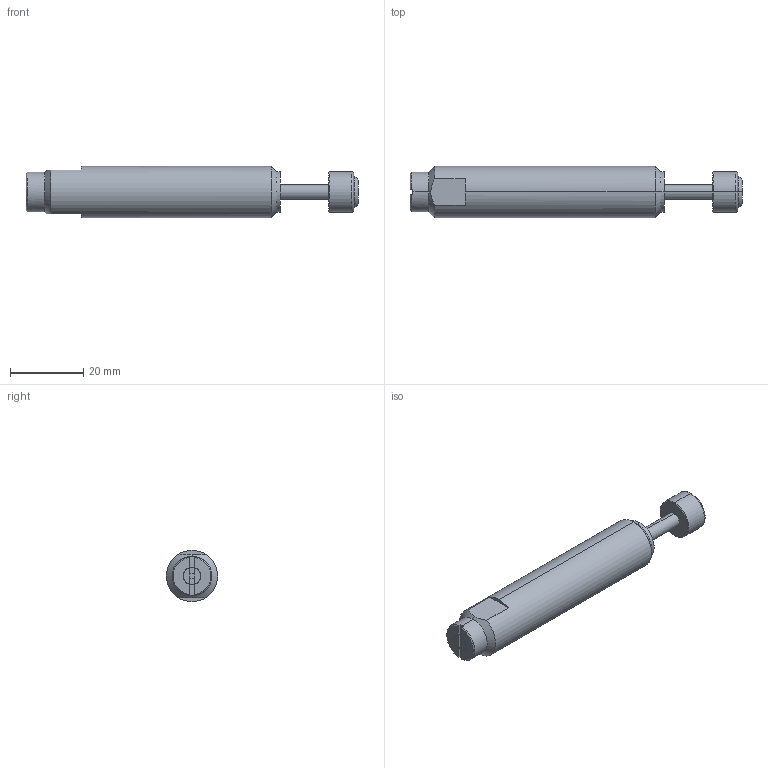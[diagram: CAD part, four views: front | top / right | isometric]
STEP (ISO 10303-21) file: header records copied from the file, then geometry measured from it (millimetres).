
FILE_DESCRIPTION (( 'STEP AP214' ), '1' );
FILE_NAME ('ES18983.STEP', '2019-12-05T08:11:23', ( 'user' ), ( 'Microsoft' ), 'SwSTEP 2.0', 'SolidWorks 2016', '' );
FILE_SCHEMA (( 'AUTOMOTIVE_DESIGN' ));
Length unit declared in the file: millimetre
Products named in the file (1): ES18983
Bounding box: 90.7 x 14 x 14 mm (x, y, z)
Volume: 10989.4 mm3; surface area: 3859.8 mm2
Topology: 1 solids, 1 shells, 61 faces, 150 edges, 96 vertices
Faces by surface type: plane 33, cylinder 16, cone 8, torus 4
Entity records: 1874 total; most frequent: CARTESIAN_POINT 364, DIRECTION 322, ORIENTED_EDGE 300, EDGE_CURVE 150, AXIS2_PLACEMENT_3D 122, VERTEX_POINT 96, LINE 78, VECTOR 78
